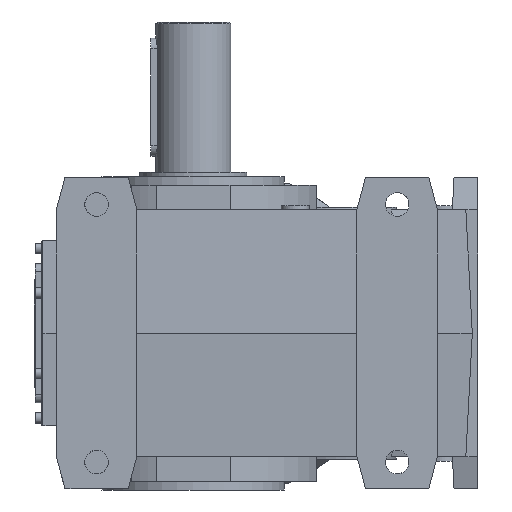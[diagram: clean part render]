
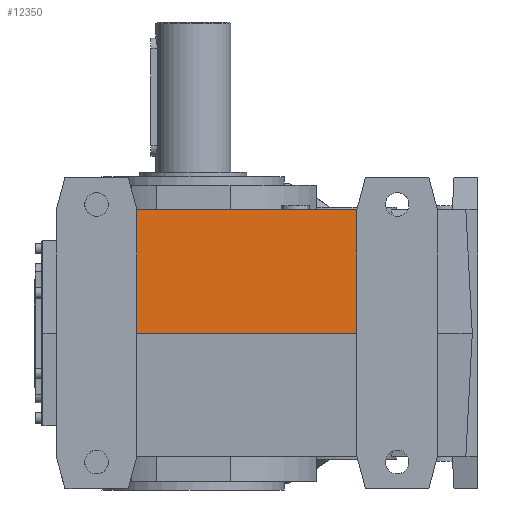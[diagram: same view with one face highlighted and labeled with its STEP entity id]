
A CAD part, left-side view. The second image highlights one B-rep face of the part: STEP entity #12350.
In plain terms, the highlighted planar face has unit normal (-0.999, 0, 0.052) as drawn and (0.999, 0, -0.052) by its records, which use the part's own axes.
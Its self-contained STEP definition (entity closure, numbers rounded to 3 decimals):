
#465=PLANE('',#13310);
#1025=LINE('',#18131,#2234);
#1467=LINE('',#19578,#2676);
#1468=LINE('',#19580,#2677);
#1469=LINE('',#19582,#2678);
#2234=VECTOR('',#14390,1000.);
#2676=VECTOR('',#15716,1000.);
#2677=VECTOR('',#15717,1000.);
#2678=VECTOR('',#15718,1000.);
#5345=ORIENTED_EDGE('',*,*,#7969,.T.);
#5346=ORIENTED_EDGE('',*,*,#7970,.F.);
#5347=ORIENTED_EDGE('',*,*,#7971,.F.);
#5348=ORIENTED_EDGE('',*,*,#7330,.F.);
#7330=EDGE_CURVE('',#8991,#8992,#1025,.T.);
#7969=EDGE_CURVE('',#8991,#9403,#1467,.T.);
#7970=EDGE_CURVE('',#9404,#9403,#1468,.T.);
#7971=EDGE_CURVE('',#8992,#9404,#1469,.T.);
#8991=VERTEX_POINT('',#18130);
#8992=VERTEX_POINT('',#18132);
#9403=VERTEX_POINT('',#19579);
#9404=VERTEX_POINT('',#19581);
#10447=EDGE_LOOP('',(#5345,#5346,#5347,#5348));
#11402=FACE_BOUND('',#10447,.T.);
#12350=ADVANCED_FACE('',(#11402),#465,.F.);
#13310=AXIS2_PLACEMENT_3D('',#19577,#15714,#15715);
#14390=DIRECTION('',(0.,-1.,0.));
#15714=DIRECTION('',(-0.999,0.,0.052));
#15715=DIRECTION('',(0.052,0.,0.999));
#15716=DIRECTION('',(0.052,0.,0.999));
#15717=DIRECTION('',(0.,1.,0.));
#15718=DIRECTION('',(0.052,0.,0.999));
#18130=CARTESIAN_POINT('',(427.973,86.5,-115.));
#18131=CARTESIAN_POINT('',(427.973,0.,-115.));
#18132=CARTESIAN_POINT('',(427.973,-118.5,-115.));
#19577=CARTESIAN_POINT('',(426.401,-118.5,-145.));
#19578=CARTESIAN_POINT('',(426.401,86.5,-145.));
#19579=CARTESIAN_POINT('',(434.,86.5,0.));
#19580=CARTESIAN_POINT('',(434.,-118.5,0.));
#19581=CARTESIAN_POINT('',(434.,-118.5,0.));
#19582=CARTESIAN_POINT('',(426.401,-118.5,-145.));
